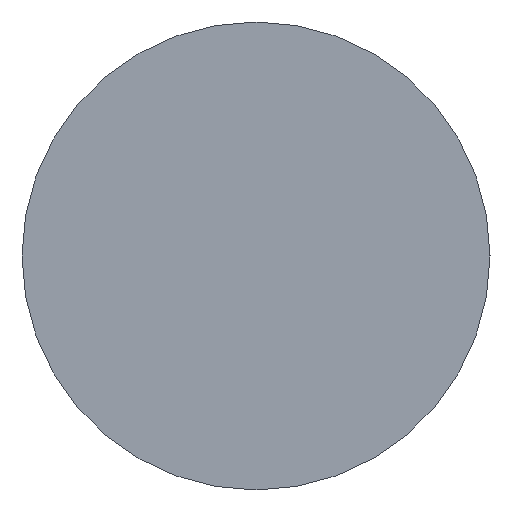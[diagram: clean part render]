
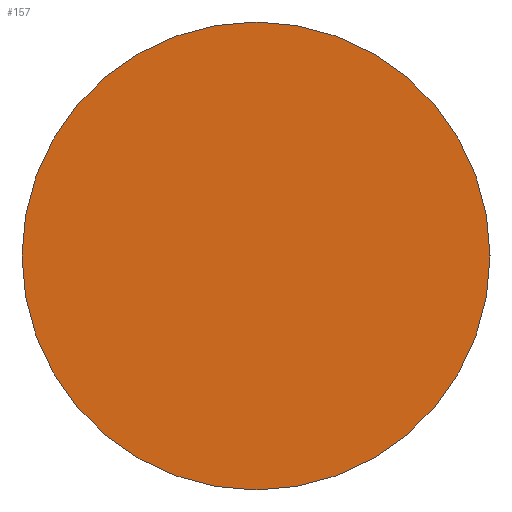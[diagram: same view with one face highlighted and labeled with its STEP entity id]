
A CAD part, left-side view. The second image highlights one B-rep face of the part: STEP entity #157.
In plain terms, the highlighted planar face has unit normal (-1, 0, 0).
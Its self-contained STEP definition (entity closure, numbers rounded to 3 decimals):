
#129 = VERTEX_POINT('',#130);
#130 = CARTESIAN_POINT('',(-2528.,0.,20.8));
#136 = EDGE_CURVE('',#129,#129,#137,.T.);
#137 = CIRCLE('',#138,20.8);
#138 = AXIS2_PLACEMENT_3D('',#139,#140,#141);
#139 = CARTESIAN_POINT('',(-2528.,0.,0.));
#140 = DIRECTION('',(1.,0.,0.));
#141 = DIRECTION('',(-0.,0.,1.));
#157 = ADVANCED_FACE('',(#158),#161,.F.);
#158 = FACE_BOUND('',#159,.T.);
#159 = EDGE_LOOP('',(#160));
#160 = ORIENTED_EDGE('',*,*,#136,.F.);
#161 = PLANE('',#162);
#162 = AXIS2_PLACEMENT_3D('',#163,#164,#165);
#163 = CARTESIAN_POINT('',(-2528.,0.,0.));
#164 = DIRECTION('',(1.,0.,0.));
#165 = DIRECTION('',(-0.,0.,1.));
